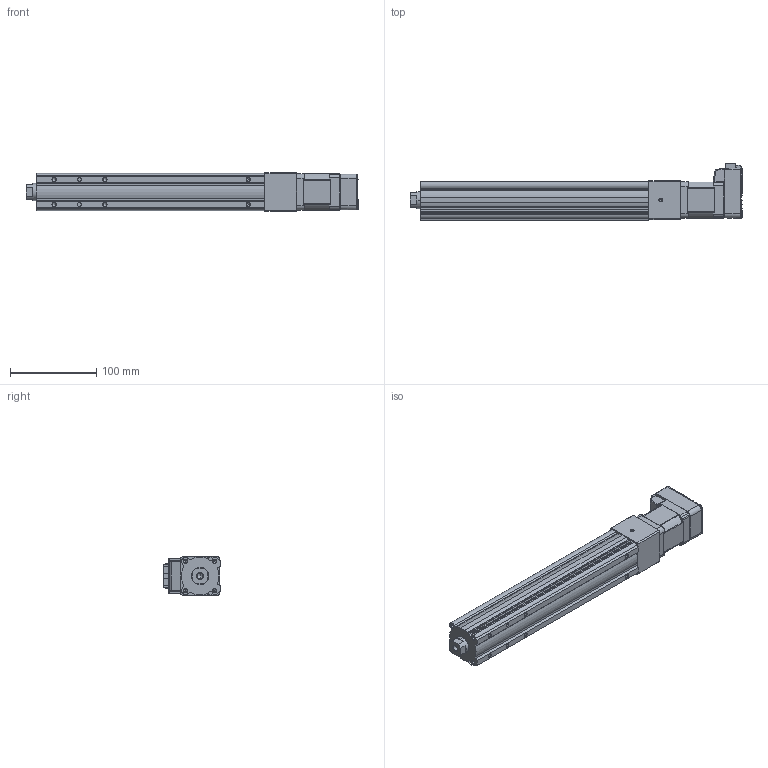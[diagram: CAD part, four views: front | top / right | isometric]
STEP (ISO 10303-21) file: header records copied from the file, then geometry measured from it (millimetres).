
FILE_DESCRIPTION (( 'STEP AP214' ), '1' );
FILE_NAME ('LEY3(+)-25DNM1□-150-17L.STEP', '2023-04-06T06:39:19', ( '' ), ( '' ), 'SwSTEP 2.0', 'SolidWorks 2019', '' );
FILE_SCHEMA (( 'AUTOMOTIVE_DESIGN' ));
Length unit declared in the file: millimetre
Products named in the file (5): LEY3(+)-25NM1?_BODY_150; LEY3(+)-25NM1?_ROD_150; LEY3(+)-25DNM1_MOTOR Flange; CM3(+)-17L50A; LEY3(+)-25DNM1□-150-17L
Assembly tree (4 placements, depth 2):
  LEY3(+)-25DNM1□-150-17L
    LEY3(+)-25NM1?_BODY_150
    LEY3(+)-25NM1?_ROD_150
    LEY3(+)-25DNM1_MOTOR Flange
    CM3(+)-17L50A
Bounding box: 384.8 x 66.75 x 45 mm (x, y, z)
Volume: 640241.6 mm3; surface area: 122183.7 mm2
Topology: 4 solids, 4 shells, 878 faces, 2218 edges, 1385 vertices
Faces by surface type: plane 460, cylinder 245, cone 94, bspline 29, torus 29, sphere 21
Full cylindrical faces by diameter (mm): 2.5 x4, 3.5 x4, 4 x1, 4.2 x6, 5 x1, 8 x1, 11 x1, 22 x1, 33 x1
Entity records: 36750 total; most frequent: CARTESIAN_POINT 6496, ORIENTED_EDGE 4284, DIRECTION 4139, EDGE_CURVE 2142, AXIS2_PLACEMENT_3D 1383, VERTEX_POINT 1375, LINE 1373, VECTOR 1373
